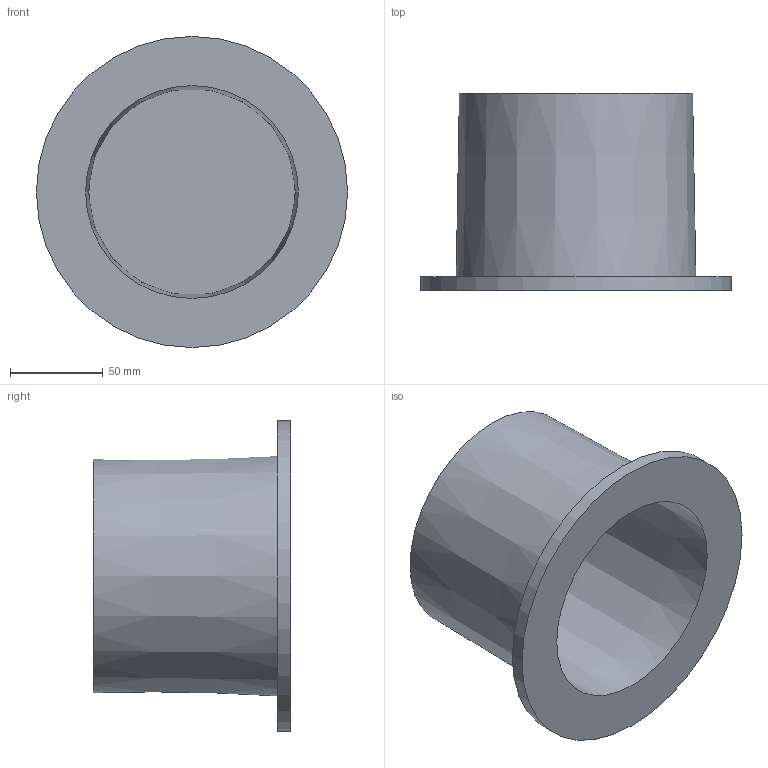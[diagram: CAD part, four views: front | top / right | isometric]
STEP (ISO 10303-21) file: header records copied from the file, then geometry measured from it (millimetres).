
FILE_DESCRIPTION(/* description */ (''),/* implementation_level */ '2;1');
FILE_NAME(/* name */ 'C:\3D\Avtron Parts\HS35 401048\Basket.stp',/* time_stamp */ '2016-09-16T15:15:39-04:00',/* author */ ('ehale'),/* organization */ (''),/* preprocessor_version */ 'ST-DEVELOPER v15.2',/* originating_system */ 'Autodesk Inventor 2014',/* authorisation */ '');
FILE_SCHEMA (('AUTOMOTIVE_DESIGN { 1 0 10303 214 3 1 1 }'));
Length unit declared in the file: inch
Products named in the file (1): D38358_Solid
Bounding box: 167.64 x 106.35 x 167.64 mm (x, y, z)
Volume: 433071.9 mm3; surface area: 121466.1 mm2
Topology: 1 solids, 1 shells, 7 faces, 9 edges, 6 vertices
Faces by surface type: plane 4, cone 2, cylinder 1
Full cylindrical faces by diameter (mm): 167.64 x1
Entity records: 157 total; most frequent: DIRECTION 28, CARTESIAN_POINT 20, AXIS2_PLACEMENT_3D 14, EDGE_LOOP 12, ORIENTED_EDGE 12, ADVANCED_FACE 7, FACE_BOUND 6, FACE_OUTER_BOUND 6
